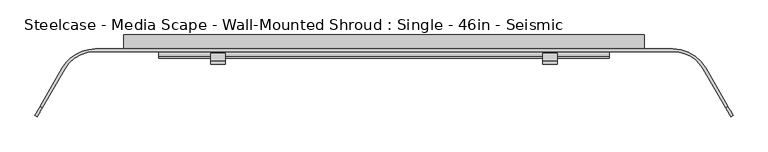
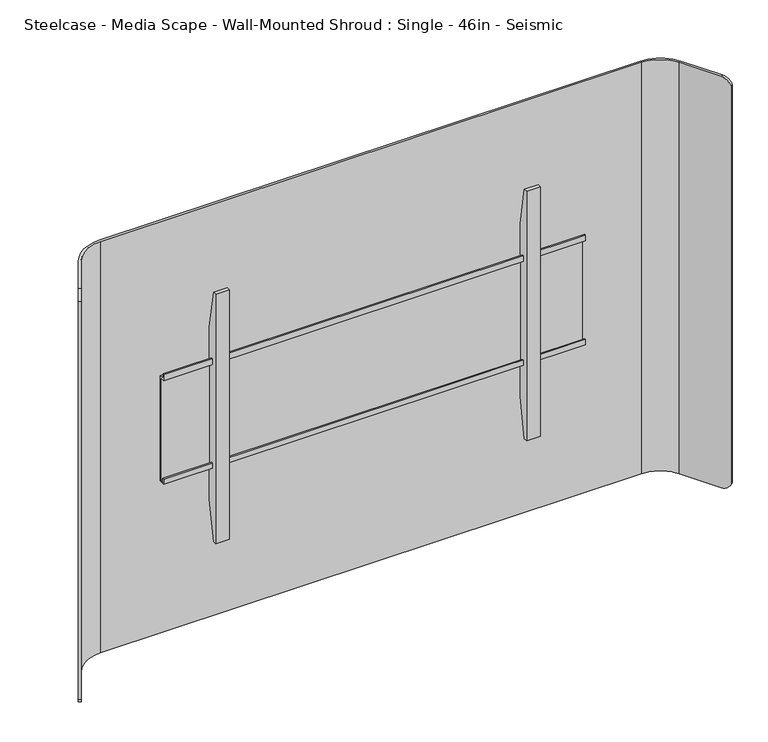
"""IFC4 building model written with IfcOpenShell, lengths in millimetres: furniture geometry, Steelcase - Media Scape - Wall-Mounted Shroud : Single - 46in - Seismic."""

from ifc_helpers import new_model, si_unit, frame, origin, place, context, project, spatial, polyline, circle_curve, outline, extrude, source, transform, mapped, element, save
from ifc_brep_helpers import plane_surface, cylinder_surface, revolved_surface, advanced_brep


def steelcase_media_scape_wall_mounted_shroud_single_46in_9a26b01a(model_context):
    return source(origin(), model_context, "Body", "SolidModel", [
        extrude(outline(polyline([(-42.4942785, 1358.3004726), (-42.4942785, 1370.3145649), (-39.8272175, 1370.3145649), (-39.8272175, 1360.967461), (-29.9720009, 1360.967461), (-29.9720009, 1146.6422438), (-42.3164551, 1146.6422438), (-42.3164551, 1157.5642515), (-39.649394, 1157.5642515), (-39.649394, 1149.307052), (-32.6531824, 1149.307052), (-32.6531824, 1358.3004726), (-42.4942785, 1358.3004726)])), frame((-406.4, 0.0, 0.0), z_axis=(1.0, 0.0, 0.0), x_axis=(0.0, 1.0, 0.0)), (0.0, 0.0, 1.0), 812.8),
        extrude(outline(polyline([(-32.6531824, 1429.2471148), (-32.6531824, 1077.4325607), (-46.5049349, 999.8046949), (-53.3399828, 999.8046949), (-53.3399828, 1507.8047192), (-46.5050076, 1507.8047192), (-32.6531824, 1429.2471148)])), frame((286.6392868, 0.0, 0.0), z_axis=(1.0, 0.0, 0.0), x_axis=(0.0, 1.0, 0.0)), (0.0, 0.0, 1.0), 26.1592872),
        extrude(outline(polyline([(-32.6531824, 1429.2471148), (-32.6531824, 1077.4325607), (-46.5049349, 999.8046949), (-53.3399828, 999.8046949), (-53.3399828, 1507.8047192), (-46.5050076, 1507.8047192), (-32.6531824, 1429.2471148)])), frame((-312.798574, 0.0, 0.0), z_axis=(1.0, 0.0, 0.0), x_axis=(0.0, 1.0, 0.0)), (0.0, 0.0, 1.0), 26.1592872),
        extrude(outline(polyline([(469.9, -25.4), (-469.9, -25.4), (-469.9, 0.0), (469.9, 0.0), (469.9, -25.4)])), frame((0.0, 0.0, 835.914), z_axis=(0.0, 0.0, 1.0), x_axis=(1.0, 0.0, 0.0)), (0.0, 0.0, 1.0), 76.2508167),
        advanced_brep(
        [(-576.7086135, -61.722, 1674.114), (-521.716002, -29.9720009, 1674.114), (521.716, -29.9720009, 1674.114), (576.7086135, -61.722, 1674.114), (616.829586, -131.2135628, 1674.114), (620.7890541, -128.9275628, 1674.114), (580.6680817, -59.436, 1674.114), (521.716002, -25.4, 1674.114), (-521.716, -25.4, 1674.114), (-580.6680817, -59.436, 1674.114), (-620.7921659, -128.9329524, 1674.114), (-616.8326977, -131.2189524, 1674.114), (-580.6680817, -59.436, 835.914), (-521.716002, -25.4, 835.914), (521.716, -25.4, 835.914), (580.6680817, -59.436, 835.914), (620.8406629, -129.0169518, 835.914), (616.8811948, -131.3029518, 835.914), (576.7086135, -61.722, 835.914), (521.716002, -29.9720009, 835.914), (-521.716, -29.9720009, 835.914), (-576.7086135, -61.722, 835.914), (-616.8954014, -131.3275584, 835.914), (-620.8548695, -129.0415584, 835.914), (-630.3590632, -145.5033047, 849.5242766), (-630.3590632, -145.5033047, 1660.1227735), (-626.3995951, -147.7893047, 1660.1227735), (-626.3995951, -147.7893047, 849.5242766), (626.3770866, -147.7503189, 849.4756893), (626.3770866, -147.7503189, 1660.2433849), (630.3365547, -145.4643189, 1660.2433849), (630.3365547, -145.4643189, 849.4756893)],
        [
            (0, 1, circle_curve(frame((-521.716002, -93.4719991, 1674.114), z_axis=(0.0, 0.0, -1.0), x_axis=(0.0, 1.0, 0.0)), 63.4999981)),
            (1, 2),
            (2, 3, circle_curve(frame((521.716002, -93.4719991, 1674.114), z_axis=(0.0, 0.0, -1.0), x_axis=(0.0, 1.0, 0.0)), 63.4999981)),
            (3, 4),
            (4, 5),
            (5, 6),
            (6, 7, circle_curve(frame((521.7160004, -93.472, 1674.114), z_axis=(0.0, 0.0, 1.0), x_axis=(0.0, 1.0, 0.0)), 68.072)),
            (7, 8),
            (8, 9, circle_curve(frame((-521.7160004, -93.472, 1674.114), z_axis=(0.0, 0.0, 1.0), x_axis=(0.0, 1.0, 0.0)), 68.072)),
            (9, 10),
            (10, 11),
            (11, 0),
            (12, 13, circle_curve(frame((-521.7160004, -93.472, 835.914), z_axis=(0.0, 0.0, -1.0), x_axis=(0.0, 1.0, 0.0)), 68.072)),
            (13, 14),
            (14, 15, circle_curve(frame((521.7160004, -93.472, 835.914), z_axis=(0.0, 0.0, -1.0), x_axis=(0.0, 1.0, 0.0)), 68.072)),
            (15, 16),
            (16, 17),
            (17, 18),
            (18, 19, circle_curve(frame((521.716002, -93.4719991, 835.914), z_axis=(0.0, 0.0, 1.0), x_axis=(0.0, 1.0, 0.0)), 63.4999981)),
            (19, 20),
            (20, 21, circle_curve(frame((-521.716002, -93.4719991, 835.914), z_axis=(0.0, 0.0, 1.0), x_axis=(0.0, 1.0, 0.0)), 63.4999981)),
            (21, 22),
            (22, 23),
            (23, 12),
            (0, 21),
            (20, 1),
            (8, 13),
            (12, 9),
            (23, 24, circle_curve(frame((-620.8548695, -129.0415584, 855.9928872), z_axis=(-0.8660254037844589, 0.4999999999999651, 0.0), x_axis=(-0.4999999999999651, -0.8660254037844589, 0.0)), 20.0788872)),
            (24, 25),
            (25, 10, circle_curve(frame((-620.7921659, -128.9329524, 1654.0351128), z_axis=(-0.8660254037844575, 0.4999999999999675, 0.0), x_axis=(-0.4999999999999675, -0.8660254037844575, 0.0)), 20.0788872)),
            (26, 25),
            (24, 27),
            (27, 26),
            (11, 26, circle_curve(frame((-616.8326977, -131.2189524, 1654.0351128), z_axis=(0.8660254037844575, -0.4999999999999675, 0.0), x_axis=(-0.4999999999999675, -0.8660254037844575, 0.0)), 20.0788872)),
            (27, 22, circle_curve(frame((-616.8954014, -131.3275584, 855.9928872), z_axis=(0.8660254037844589, -0.4999999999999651, 0.0), x_axis=(-0.4999999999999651, -0.8660254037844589, 0.0)), 20.0788872)),
            (7, 14),
            (19, 2),
            (3, 18),
            (17, 28, circle_curve(frame((616.8811948, -131.3029518, 855.9928872), z_axis=(-0.8660254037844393, -0.49999999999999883, 0.0), x_axis=(0.49999999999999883, -0.8660254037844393, 0.0)), 20.0788872)),
            (28, 29),
            (29, 4, circle_curve(frame((616.829586, -131.2135628, 1654.0351128), z_axis=(-0.8660254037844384, -0.5000000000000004, 0.0), x_axis=(0.5000000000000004, -0.8660254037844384, 0.0)), 20.0788872)),
            (30, 29),
            (28, 31),
            (31, 30),
            (15, 6),
            (5, 30, circle_curve(frame((620.7890541, -128.9275628, 1654.0351128), z_axis=(0.8660254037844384, 0.5000000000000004, 0.0), x_axis=(0.5000000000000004, -0.8660254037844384, 0.0)), 20.0788872)),
            (31, 16, circle_curve(frame((620.8406629, -129.0169518, 855.9928872), z_axis=(0.8660254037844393, 0.49999999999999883, 0.0), x_axis=(0.49999999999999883, -0.8660254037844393, 0.0)), 20.0788872)),
        ],
        [
            plane_surface(frame((-521.716002, -29.9720009, 1674.114), z_axis=(0.0, 0.0, 1.0), x_axis=(1.0, 0.0, 0.0))),
            plane_surface(frame((-521.716002, -29.9720009, 835.914), z_axis=(0.0, 0.0, -1.0), x_axis=(-1.0, 0.0, 0.0))),
            revolved_surface(polyline([(-521.716002, -29.972001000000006, 835.914), (-521.716002, -29.972001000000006, 1674.114)]), (-521.716002, -93.4719991, 835.914), (0.0, 0.0, -1.0)),
            cylinder_surface(frame((-521.7160004, -93.472, 835.914), z_axis=(0.0, 0.0, 1.0), x_axis=(0.0, 1.0, 0.0)), 68.072),
            plane_surface(frame((-580.6680817, -59.436, 1674.114), z_axis=(-0.8660254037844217, 0.5000000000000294, 0.0), x_axis=(0.0, 0.0, -1.0))),
            plane_surface(frame((-630.3590632, -145.5033047, 1674.114), z_axis=(-0.5000000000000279, -0.8660254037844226, 0.0), x_axis=(0.0, 0.0, -1.0))),
            plane_surface(frame((-626.3995951, -147.7893047, 1674.114), z_axis=(0.8660254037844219, -0.500000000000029, 0.0), x_axis=(0.0, 0.0, -1.0))),
            plane_surface(frame((521.716, -25.4, 1674.114), z_axis=(0.0, 1.0, 0.0), x_axis=(0.0, 0.0, -1.0))),
            plane_surface(frame((-521.716, -29.9720009, 1674.114), z_axis=(0.0, -1.0, 0.0), x_axis=(0.0, 0.0, -1.0))),
            plane_surface(frame((576.7086135, -61.722, 1674.114), z_axis=(-0.8660254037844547, -0.4999999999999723, 0.0), x_axis=(0.0, 0.0, -1.0))),
            plane_surface(frame((626.3770866, -147.7503189, 1674.114), z_axis=(0.4999999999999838, -0.866025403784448, 0.0), x_axis=(0.0, 0.0, -1.0))),
            plane_surface(frame((630.3365547, -145.4643189, 1674.114), z_axis=(0.8660254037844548, 0.49999999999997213, 0.0), x_axis=(0.0, 0.0, -1.0))),
            cylinder_surface(frame((521.7160004, -93.472, 835.914), z_axis=(0.0, 0.0, 1.0), x_axis=(0.0, 1.0, 0.0)), 68.072),
            revolved_surface(polyline([(521.716002, -29.972001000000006, 835.914), (521.716002, -29.972001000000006, 1674.114)]), (521.716002, -93.4719991, 835.914), (0.0, 0.0, -1.0)),
            cylinder_surface(frame((-616.8326977, -131.2189524, 1654.0351128), z_axis=(0.8660254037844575, -0.4999999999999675, 0.0), x_axis=(-0.4999999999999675, -0.8660254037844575, 0.0)), 20.0788872),
            cylinder_surface(frame((-616.8954014, -131.3275584, 855.9928872), z_axis=(0.8660254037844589, -0.4999999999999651, 0.0), x_axis=(-0.4999999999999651, -0.8660254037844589, 0.0)), 20.0788872),
            cylinder_surface(frame((631.9364297, -122.4916225, 1654.0351128), z_axis=(0.8660254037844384, 0.5000000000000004, 0.0), x_axis=(0.5000000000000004, -0.8660254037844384, 0.0)), 20.0788872),
            cylinder_surface(frame((629.1289695, -124.2316958, 855.9928872), z_axis=(0.8660254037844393, 0.49999999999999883, 0.0), x_axis=(0.49999999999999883, -0.8660254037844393, 0.0)), 20.0788872),
        ],
        [
            (0, [[1, 2, 3, 4, 5, 6, 7, 8, 9, 10, 11, 12]]),
            (1, [[13, 14, 15, 16, 17, 18, 19, 20, 21, 22, 23, 24]]),
            (2, [[-1, 25, -21, 26]]),
            (3, [[-9, 27, -13, 28]]),
            (4, [[-28, -24, 29, 30, 31, -10]]),
            (5, [[32, -30, 33, 34]]),
            (6, [[-25, -12, 35, -34, 36, -22]]),
            (7, [[-8, 37, -14, -27]]),
            (8, [[-2, -26, -20, 38]]),
            (9, [[39, -18, 40, 41, 42, -4]]),
            (10, [[43, -41, 44, 45]]),
            (11, [[46, -6, 47, -45, 48, -16]]),
            (12, [[-7, -46, -15, -37]]),
            (13, [[-3, -38, -19, -39]]),
            (14, [[-11, -31, -32, -35]]),
            (15, [[-23, -36, -33, -29]]),
            (16, [[-5, -42, -43, -47]]),
            (17, [[-17, -48, -44, -40]]),
        ],
    ),
        extrude(outline(polyline([(912.1648167, 406.3999879), (912.1648167, 469.9), (1597.914, 469.9), (1597.914, -469.9), (912.1648167, -469.9), (912.1648167, -407.3933465), (1534.4139516, -407.3933465), (1534.4139516, 406.3999879), (912.1648167, 406.3999879)])), frame((0.0, -25.4, 0.0), z_axis=(0.0, 1.0, 0.0), x_axis=(0.0, 0.0, 1.0)), (0.0, 0.0, 1.0), 25.4),
    ])


if __name__ == "__main__":
    model = new_model("IFC4")
    model_context = context("Model", 3, world=origin())
    ifc_project = project(units=[si_unit("LENGTHUNIT", "METRE", prefix="MILLI")], contexts=[model_context])
    site = spatial("IfcSite", under=ifc_project)
    building = spatial("IfcBuilding", under=site)
    placement = place(None, origin())
    steelcase_media_scape_wall_mounted_shroud_single_46in_shape = steelcase_media_scape_wall_mounted_shroud_single_46in_9a26b01a(model_context)
    element("IfcFurniture", 1, ObjectType="Steelcase - Media Scape - Wall-Mounted Shroud : Single - 46in - Seismic", at=placement, inside=building, context=model_context, shape_type="MappedRepresentation", body=[
        mapped(steelcase_media_scape_wall_mounted_shroud_single_46in_shape, transform((0.0, 0.0, 0.0), x_axis=(1.0, 0.0, 0.0), y_axis=(0.0, 1.0, 0.0), z_axis=(0.0, 0.0, 1.0))),
    ])
    save(model, "model.ifc")
